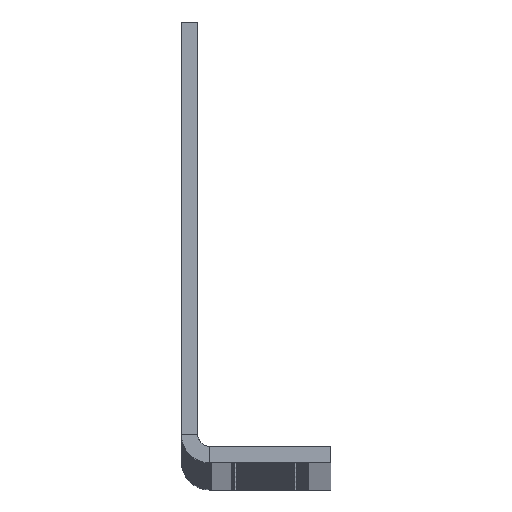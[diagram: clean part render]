
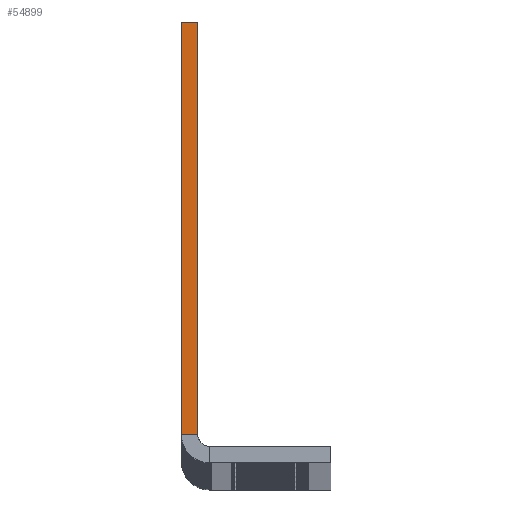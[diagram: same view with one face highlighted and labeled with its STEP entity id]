
A CAD part, top view. The second image highlights one B-rep face of the part: STEP entity #54899.
In plain terms, the highlighted planar face has unit normal (0, 0, 1).
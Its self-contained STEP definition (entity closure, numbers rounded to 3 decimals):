
#22 = EDGE_CURVE ( 'NONE', #74576, #74571, #40142, .T. ) ;
#23 = EDGE_CURVE ( 'NONE', #74571, #74446, #40130, .T. ) ;
#24 = EDGE_CURVE ( 'NONE', #74459, #74446, #40148, .T. ) ;
#25 = EDGE_CURVE ( 'NONE', #74576, #74459, #40150, .T. ) ;
#5703 = CARTESIAN_POINT ( 'NONE',  ( 0., 54.5, 966.5 ) ) ;
#5704 = DIRECTION ( 'NONE',  ( 0., -1., 0. ) ) ;
#5711 = CARTESIAN_POINT ( 'NONE',  ( 0., 3.5, 966.5 ) ) ;
#5713 = DIRECTION ( 'NONE',  ( 0., -1., 0. ) ) ;
#5770 = DIRECTION ( 'NONE',  ( 1., 0., 0. ) ) ;
#5773 = DIRECTION ( 'NONE',  ( 1., 0., 0. ) ) ;
#5804 = CARTESIAN_POINT ( 'NONE',  ( 2., 0., 966.5 ) ) ;
#5808 = CARTESIAN_POINT ( 'NONE',  ( 0., 0., 966.5 ) ) ;
#13303 = CARTESIAN_POINT ( 'NONE',  ( 2., 3.5, 966.5 ) ) ;
#13322 = CARTESIAN_POINT ( 'NONE',  ( 2., 54.5, 966.5 ) ) ;
#13479 = CARTESIAN_POINT ( 'NONE',  ( 0., 3.5, 966.5 ) ) ;
#13487 = CARTESIAN_POINT ( 'NONE',  ( 0., 54.5, 966.5 ) ) ;
#14821 = ORIENTED_EDGE ( 'NONE', *, *, #22, .T. ) ;
#22964 = AXIS2_PLACEMENT_3D ( 'NONE', #73743, #73749, #73750 ) ;
#40130 = LINE ( 'NONE', #5711, #40149 ) ;
#40142 = LINE ( 'NONE', #5808, #40147 ) ;
#40147 = VECTOR ( 'NONE', #5704, 1000. ) ;
#40148 = LINE ( 'NONE', #5804, #40151 ) ;
#40149 = VECTOR ( 'NONE', #5773, 1000. ) ;
#40150 = LINE ( 'NONE', #5703, #40153 ) ;
#40151 = VECTOR ( 'NONE', #5713, 1000. ) ;
#40153 = VECTOR ( 'NONE', #5770, 1000. ) ;
#42972 = EDGE_LOOP ( 'NONE', ( #14821, #52796, #52793, #52795 ) ) ;
#52793 = ORIENTED_EDGE ( 'NONE', *, *, #24, .F. ) ;
#52795 = ORIENTED_EDGE ( 'NONE', *, *, #25, .F. ) ;
#52796 = ORIENTED_EDGE ( 'NONE', *, *, #23, .T. ) ;
#54899 = ADVANCED_FACE ( 'NONE', ( #67030 ), #73747, .T. ) ;
#67030 = FACE_OUTER_BOUND ( 'NONE', #42972, .T. ) ;
#73743 = CARTESIAN_POINT ( 'NONE',  ( 3.5, 2., 966.5 ) ) ;
#73747 = PLANE ( 'NONE',  #22964 ) ;
#73749 = DIRECTION ( 'NONE',  ( 0., 0., 1. ) ) ;
#73750 = DIRECTION ( 'NONE',  ( 1., 0., 0. ) ) ;
#74446 = VERTEX_POINT ( 'NONE', #13303 ) ;
#74459 = VERTEX_POINT ( 'NONE', #13322 ) ;
#74571 = VERTEX_POINT ( 'NONE', #13479 ) ;
#74576 = VERTEX_POINT ( 'NONE', #13487 ) ;
